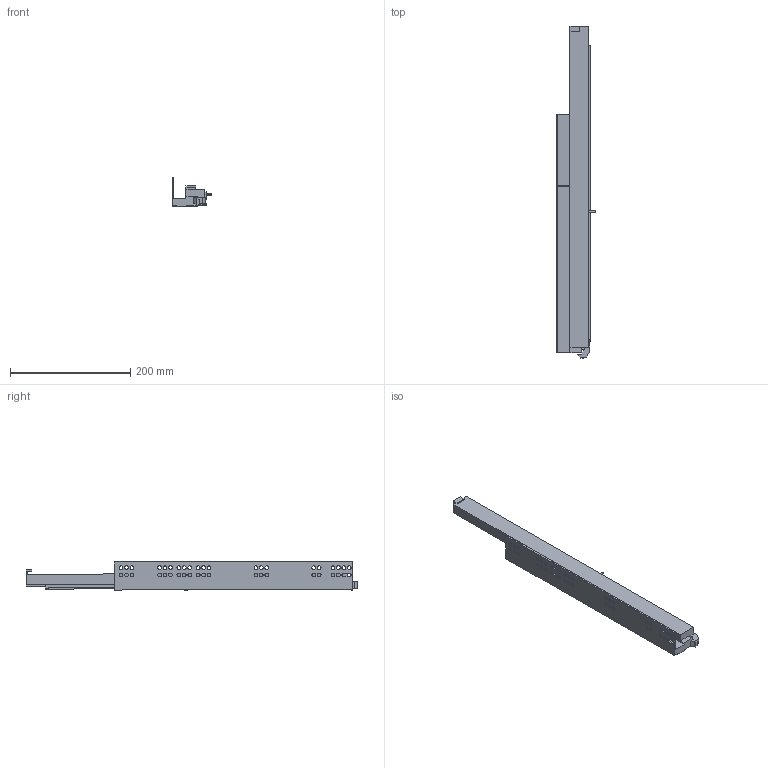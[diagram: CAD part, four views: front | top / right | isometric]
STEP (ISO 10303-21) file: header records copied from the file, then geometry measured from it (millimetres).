
FILE_DESCRIPTION (( 'STEP AP203' ), '1' );
FILE_NAME ('IMOS_Dynapro_Tipmatic_D51_NL_0_LI.STEP', '2013-03-22T12:02:35', ( 'Grass GmbH' ), ( 'Grass GmbH' ), 'SwSTEP 2.0', 'SolidWorks 2012', '' );
FILE_SCHEMA (( 'CONFIG_CONTROL_DESIGN' ));
Length unit declared in the file: millimetre
Products named in the file (1): IMOS_Dynapro_Tipmatic_D51_NL_0_LI
Bounding box: 65.92 x 551.55 x 48.48 mm (x, y, z)
Volume: 519021.4 mm3; surface area: 126281.1 mm2
Topology: 1 solids, 1 shells, 190 faces, 549 edges, 366 vertices
Faces by surface type: plane 99, cylinder 91
Entity records: 6536 total; most frequent: DIRECTION 1113, CARTESIAN_POINT 1106, ORIENTED_EDGE 1098, EDGE_CURVE 549, AXIS2_PLACEMENT_3D 373, VECTOR 367, LINE 367, VERTEX_POINT 366
